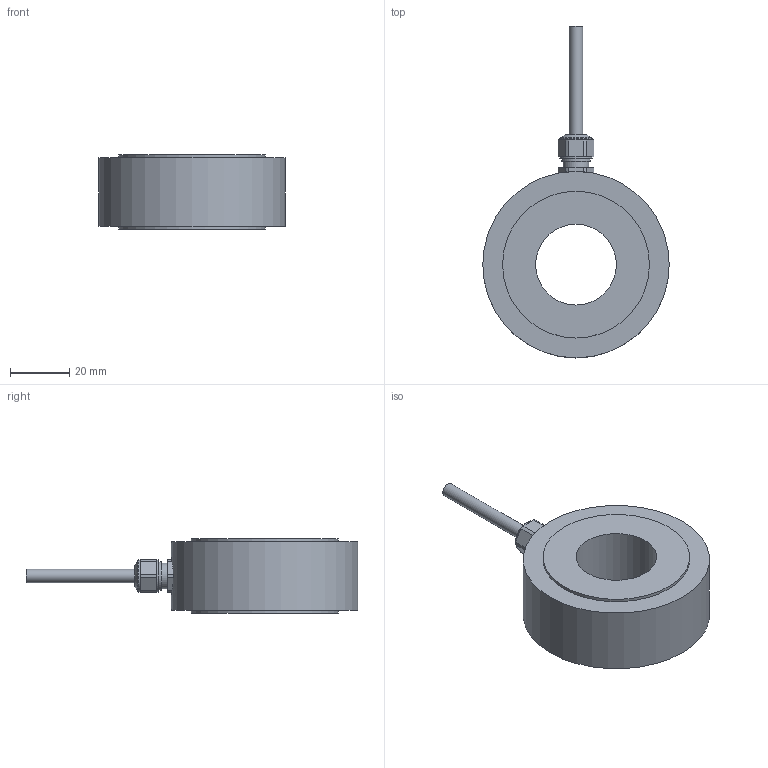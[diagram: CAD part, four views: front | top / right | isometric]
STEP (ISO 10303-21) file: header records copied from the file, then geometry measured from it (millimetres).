
FILE_DESCRIPTION(/* description */ (''),/* implementation_level */ '2;1');
FILE_NAME(/* name */ 'I:/New Datasheets/STEP Models/Pending models/CCG-300kN-003-000.step',/* time_stamp */ '2019-08-16T13:42:01+01:00',/* author */ (''),/* organization */ (''),/* preprocessor_version */ 'ST-DEVELOPER v18',/* originating_system */ 'Autodesk Translation Framework v8.6.0.1094',/* authorisation */ '');
FILE_SCHEMA (('AUTOMOTIVE_DESIGN { 1 0 10303 214 3 1 1 }'));
Length unit declared in the file: millimetre
Products named in the file (4): CCG-300kN-003-000 -; GLAND-M8-001; M6 Gland; CCG-300kN-003-000
Assembly tree (3 placements, depth 3):
  CCG-300kN-003-000 -
    GLAND-M8-001
      M6 Gland
    CCG-300kN-003-000
Bounding box: 63 x 112.13 x 25 mm (x, y, z)
Volume: 124701.6 mm3; surface area: 28387.5 mm2
Topology: 3 solids, 9 shells, 175 faces, 435 edges, 304 vertices
Faces by surface type: plane 68, cylinder 64, cone 26, torus 17
Full cylindrical faces by diameter (mm): 4.6 x4, 5.1 x2, 5.2 x2, 6.466 x4, 6.7 x2, 6.779 x3, 8 x1, 8.596 x2, 9 x2, 9.15 x2, 9.794 x2, 10.9 x4, 12.5 x2, 27.3 x2, 49.6 x4, 63 x2
Entity records: 5585 total; most frequent: CARTESIAN_POINT 1037, DIRECTION 1036, ORIENTED_EDGE 866, AXIS2_PLACEMENT_3D 449, EDGE_CURVE 433, VERTEX_POINT 304, CIRCLE 267, EDGE_LOOP 217
